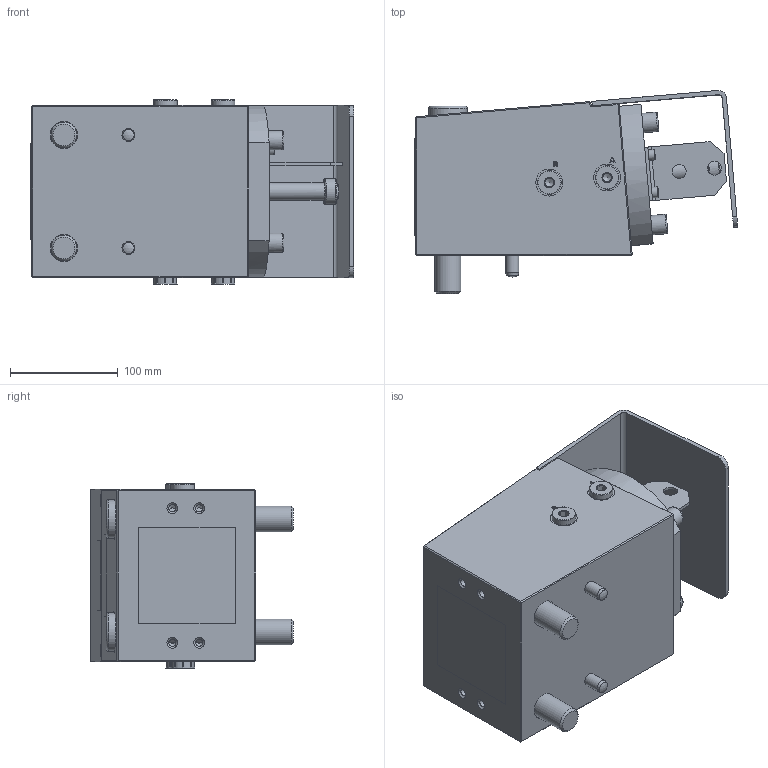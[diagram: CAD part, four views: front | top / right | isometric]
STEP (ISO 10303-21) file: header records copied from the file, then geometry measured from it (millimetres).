
FILE_DESCRIPTION(/* description */ (''),/* implementation_level */ '2;1');
FILE_NAME(/* name */ 'Z:\Standard products\1. QMC Clamping Systems\3. MOD - Mouldclamp\MOD1010\MOD1010-400-RH-300-P700(M24) (06-10-15).stp',/* time_stamp */ '2015-10-06T09:59:16+02:00',/* author */ ('breep'),/* organization */ (''),/* preprocessor_version */ 'ST-DEVELOPER v15.2',/* originating_system */ 'Autodesk Inventor 2014',/* authorisation */ '');
FILE_SCHEMA (('AUTOMOTIVE_DESIGN { 1 0 10303 214 3 1 1 }'));
Length unit declared in the file: millimetre
Products named in the file (1): Part1
Bounding box: 300.82 x 188.53 x 171.1 mm (x, y, z)
Volume: 254638.2 mm3; surface area: 493237.7 mm2
Topology: 21 solids, 24 shells, 675 faces, 1591 edges, 1017 vertices
Faces by surface type: plane 310, cylinder 186, cone 111, torus 34, bspline 28, sphere 6
Full cylindrical faces by diameter (mm): 3.242 x1, 4 x7, 4.134 x2, 4.917 x6, 4.918 x2, 5 x2, 6 x6, 6.3 x1, 6.4 x2, 6.647 x4, 7 x3, 8 x2, 10 x2, 10.106 x4, 11.8 x2, 12 x6, 12.2 x2, 13 x8, 14.376 x1, 14.5 x2, 14.9 x2, 14.95 x6, 16 x3, 16.03 x1, 16.1 x1, 16.25 x1, 16.3 x2, 16.4 x1, 16.8 x1, 18 x5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
Entity records: 18105 total; most frequent: CARTESIAN_POINT 3916, DIRECTION 2791, ORIENTED_EDGE 2338, EDGE_CURVE 1166, AXIS2_PLACEMENT_3D 1131, EDGE_LOOP 1051, VERTEX_POINT 872, STYLED_ITEM 678
